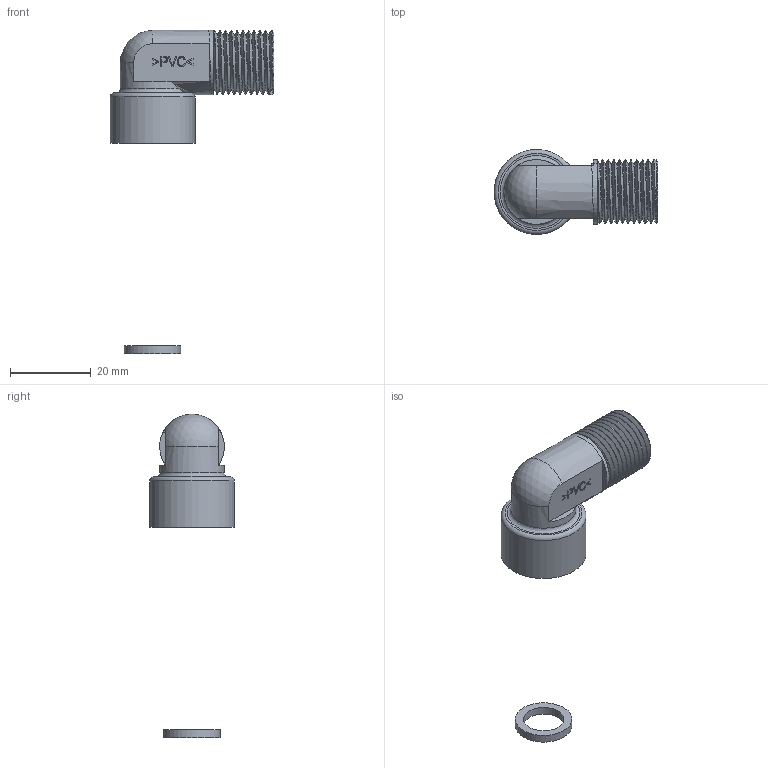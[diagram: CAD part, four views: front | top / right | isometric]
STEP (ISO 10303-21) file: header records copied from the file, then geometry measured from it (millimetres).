
FILE_DESCRIPTION(/* description */ (''),/* implementation_level */ '2;1');
FILE_NAME(/* name */ 'Cat_LEV_35207203_SET_B_1-Winkelstück.stp',/* time_stamp */ '2020-02-13T15:36:36+01:00',/* author */ (''),/* organization */ (''),/* preprocessor_version */ 'ST-DEVELOPER v16',/* originating_system */ 'SIEMENS PLM Software NX 11.0',/* authorisation */ '');
FILE_SCHEMA (('AP203_CONFIGURATION_CONTROLLED_3D_DESIGN_OF_MECHANICAL_PARTS_AND_ASSEMBLIES_MIM_LF { 1 0 10303 403 2 1 2}'));
Length unit declared in the file: millimetre
Products named in the file (1): hi2n1C48DBE9mnca
Bounding box: 40.5 x 21 x 80 mm (x, y, z)
Volume: 7748.7 mm3; surface area: 5784.2 mm2
Topology: 3 solids, 3 shells, 115 faces, 291 edges, 193 vertices
Faces by surface type: plane 73, extrusion 19, cylinder 11, bspline 7, cone 2, torus 2, sphere 1
Full cylindrical faces by diameter (mm): 6.5 x1, 8 x1, 10 x3, 14 x2, 14.188 x1, 21 x1
Entity records: 7279 total; most frequent: CARTESIAN_POINT 4846, ORIENTED_EDGE 534, DIRECTION 332, EDGE_CURVE 267, VERTEX_POINT 184, B_SPLINE_CURVE_WITH_KNOTS 175, EDGE_LOOP 147, AXIS2_PLACEMENT_3D 119
